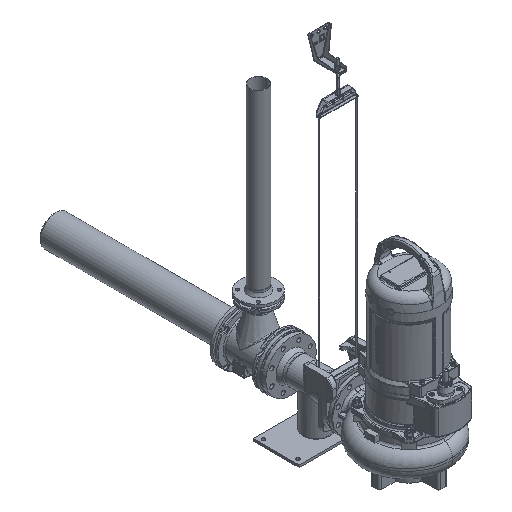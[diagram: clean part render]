
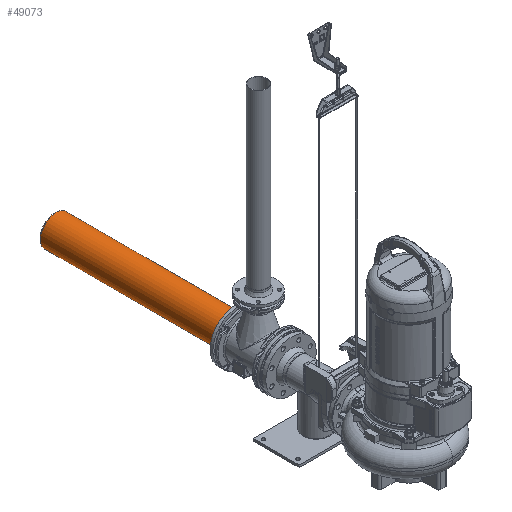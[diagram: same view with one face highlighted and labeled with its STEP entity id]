
A CAD part, isometric view. The second image highlights one B-rep face of the part: STEP entity #49073.
In plain terms, the highlighted cylindrical face has radius 66.5 mm (diameter 133 mm), a full revolution.
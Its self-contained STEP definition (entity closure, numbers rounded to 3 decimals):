
#4598=FACE_OUTER_BOUND('',#7676,.T.);
#7676=EDGE_LOOP('',(#31612,#31613,#31614,#31615,#31616));
#11052=LINE('',#72870,#13658);
#13658=VECTOR('',#58665,66.5);
#16291=CIRCLE('',#52712,66.5);
#16292=CIRCLE('',#52713,66.5);
#16293=CIRCLE('',#52715,66.5);
#19434=VERTEX_POINT('',#72862);
#19435=VERTEX_POINT('',#72864);
#19436=VERTEX_POINT('',#72868);
#24095=EDGE_CURVE('',#19434,#19435,#16291,.T.);
#24096=EDGE_CURVE('',#19435,#19434,#16292,.T.);
#24097=EDGE_CURVE('',#19436,#19436,#16293,.T.);
#24098=EDGE_CURVE('',#19436,#19435,#11052,.T.);
#31612=ORIENTED_EDGE('',*,*,#24097,.T.);
#31613=ORIENTED_EDGE('',*,*,#24098,.T.);
#31614=ORIENTED_EDGE('',*,*,#24095,.F.);
#31615=ORIENTED_EDGE('',*,*,#24096,.F.);
#31616=ORIENTED_EDGE('',*,*,#24098,.F.);
#46335=CYLINDRICAL_SURFACE('',#52714,66.5);
#49073=ADVANCED_FACE('',(#4598),#46335,.T.);
#52712=AXIS2_PLACEMENT_3D('',#72865,#58657,#58658);
#52713=AXIS2_PLACEMENT_3D('',#72866,#58659,#58660);
#52714=AXIS2_PLACEMENT_3D('',#72867,#58661,#58662);
#52715=AXIS2_PLACEMENT_3D('',#72869,#58663,#58664);
#58657=DIRECTION('center_axis',(0.,0.,-1.));
#58658=DIRECTION('ref_axis',(-1.,0.,0.));
#58659=DIRECTION('center_axis',(0.,0.,-1.));
#58660=DIRECTION('ref_axis',(-1.,0.,0.));
#58661=DIRECTION('center_axis',(0.,0.,1.));
#58662=DIRECTION('ref_axis',(1.,0.,0.));
#58663=DIRECTION('center_axis',(0.,0.,-1.));
#58664=DIRECTION('ref_axis',(1.,0.,0.));
#58665=DIRECTION('',(0.,0.,-1.));
#72862=CARTESIAN_POINT('',(66.5,0.,15.));
#72864=CARTESIAN_POINT('',(-66.5,0.,15.));
#72865=CARTESIAN_POINT('Origin',(0.,0.,15.));
#72866=CARTESIAN_POINT('Origin',(0.,0.,15.));
#72867=CARTESIAN_POINT('Origin',(0.,0.,0.));
#72868=CARTESIAN_POINT('',(-66.5,0.,800.));
#72869=CARTESIAN_POINT('Origin',(0.,0.,800.));
#72870=CARTESIAN_POINT('',(-66.5,0.,0.));
